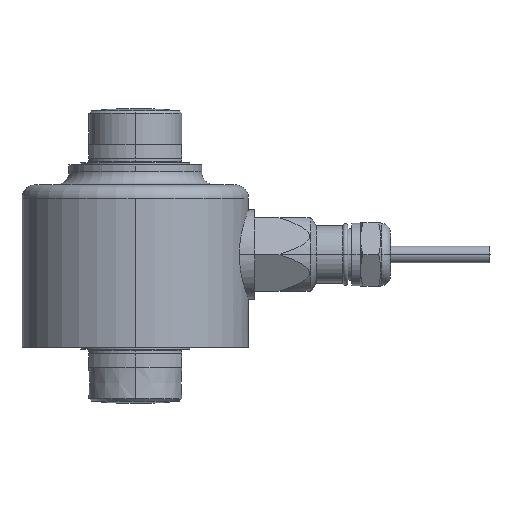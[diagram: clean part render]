
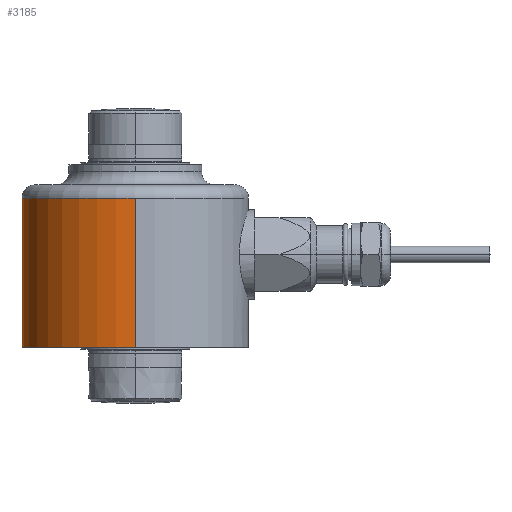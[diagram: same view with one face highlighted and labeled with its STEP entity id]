
A CAD part, left-side view. The second image highlights one B-rep face of the part: STEP entity #3185.
In plain terms, the highlighted cylindrical face has radius 34.15 mm (diameter 68.3 mm), a partial arc.
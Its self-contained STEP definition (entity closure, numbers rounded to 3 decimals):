
#159 = EDGE_CURVE ( 'NONE', #259, #743, #2897, .T. ) ;
#171 = EDGE_CURVE ( 'NONE', #620, #860, #2909, .T. ) ;
#201 = EDGE_CURVE ( 'NONE', #943, #860, #2951, .T. ) ;
#259 = VERTEX_POINT ( 'NONE', #1440 ) ;
#437 = EDGE_LOOP ( 'NONE', ( #2152, #2153, #2154, #2155, #2156 ) ) ;
#620 = VERTEX_POINT ( 'NONE', #1403 ) ;
#743 = VERTEX_POINT ( 'NONE', #1363 ) ;
#860 = VERTEX_POINT ( 'NONE', #1298 ) ;
#943 = VERTEX_POINT ( 'NONE', #1289 ) ;
#1103 = CARTESIAN_POINT ( 'NONE',  ( -52.747, -34.925, 154.474 ) ) ;
#1250 = EDGE_CURVE ( 'NONE', #620, #259, #2992, .T. ) ;
#1289 = CARTESIAN_POINT ( 'NONE',  ( -18.597, -0.775, 176.974 ) ) ;
#1295 = DIRECTION ( 'NONE',  ( 0., 0., 1. ) ) ;
#1298 = CARTESIAN_POINT ( 'NONE',  ( 15.553, -34.925, 176.974 ) ) ;
#1363 = CARTESIAN_POINT ( 'NONE',  ( -52.747, -34.925, 176.974 ) ) ;
#1403 = CARTESIAN_POINT ( 'NONE',  ( 15.553, -34.925, 131.974 ) ) ;
#1440 = CARTESIAN_POINT ( 'NONE',  ( -52.747, -34.925, 131.974 ) ) ;
#1452 = DIRECTION ( 'NONE',  ( 0., -1., 0. ) ) ;
#1453 = DIRECTION ( 'NONE',  ( 0., 0., -1. ) ) ;
#1467 = CARTESIAN_POINT ( 'NONE',  ( -18.597, -34.925, 176.974 ) ) ;
#1652 = DIRECTION ( 'NONE',  ( 0., 0., 1. ) ) ;
#1653 = CARTESIAN_POINT ( 'NONE',  ( 15.553, -34.925, 154.474 ) ) ;
#1928 = DIRECTION ( 'NONE',  ( 0., -1., 0. ) ) ;
#1929 = DIRECTION ( 'NONE',  ( 0., 0., -1. ) ) ;
#1941 = CARTESIAN_POINT ( 'NONE',  ( -18.597, -34.925, 176.974 ) ) ;
#2027 = DIRECTION ( 'NONE',  ( -1., 0., 0. ) ) ;
#2028 = DIRECTION ( 'NONE',  ( 0., 0., 1. ) ) ;
#2030 = CARTESIAN_POINT ( 'NONE',  ( -18.597, -34.925, 131.974 ) ) ;
#2152 = ORIENTED_EDGE ( 'NONE', *, *, #171, .F. ) ;
#2153 = ORIENTED_EDGE ( 'NONE', *, *, #1250, .T. ) ;
#2154 = ORIENTED_EDGE ( 'NONE', *, *, #159, .T. ) ;
#2155 = ORIENTED_EDGE ( 'NONE', *, *, #2196, .T. ) ;
#2156 = ORIENTED_EDGE ( 'NONE', *, *, #201, .T. ) ;
#2196 = EDGE_CURVE ( 'NONE', #743, #943, #3003, .T. ) ;
#2286 = CARTESIAN_POINT ( 'NONE',  ( -18.597, -34.925, 154.474 ) ) ;
#2301 = DIRECTION ( 'NONE',  ( -1., 0., 0. ) ) ;
#2308 = DIRECTION ( 'NONE',  ( 0., 0., 1. ) ) ;
#2512 = AXIS2_PLACEMENT_3D ( 'NONE', #1467, #1453, #1452 ) ;
#2524 = AXIS2_PLACEMENT_3D ( 'NONE', #2030, #2028, #2027 ) ;
#2531 = AXIS2_PLACEMENT_3D ( 'NONE', #1941, #1929, #1928 ) ;
#2673 = AXIS2_PLACEMENT_3D ( 'NONE', #2286, #2308, #2301 ) ;
#2886 = VECTOR ( 'NONE', #1295, 1000. ) ;
#2897 = LINE ( 'NONE', #1103, #2886 ) ;
#2909 = LINE ( 'NONE', #1653, #2910 ) ;
#2910 = VECTOR ( 'NONE', #1652, 1000. ) ;
#2951 = CIRCLE ( 'NONE', #2512, 34.15 ) ;
#2992 = CIRCLE ( 'NONE', #2524, 34.15 ) ;
#3003 = CIRCLE ( 'NONE', #2531, 34.15 ) ;
#3125 = FACE_OUTER_BOUND ( 'NONE', #437, .T. ) ;
#3134 = CYLINDRICAL_SURFACE ( 'NONE', #2673, 34.15 ) ;
#3185 = ADVANCED_FACE ( 'NONE', ( #3125 ), #3134, .T. ) ;
